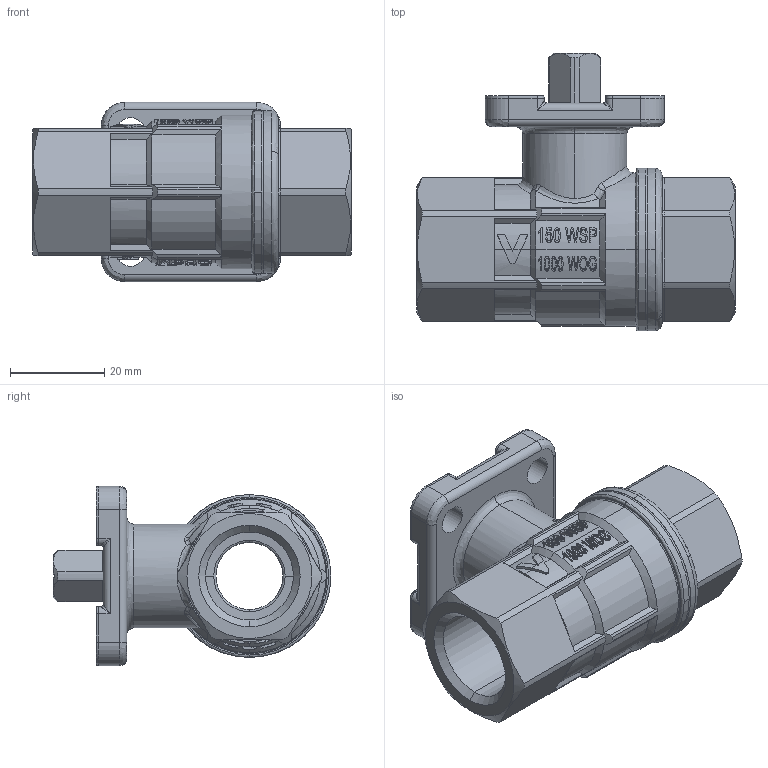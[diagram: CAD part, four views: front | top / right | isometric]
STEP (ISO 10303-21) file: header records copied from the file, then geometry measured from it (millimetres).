
FILE_DESCRIPTION (( 'STEP AP203' ), '1' );
FILE_NAME ('70300004.STEP', '2009-05-20T09:47:55', ( '.' ), ( '.' ), 'SwSTEP 2.0', 'SolidWorks 2008', '' );
FILE_SCHEMA (( 'CONFIG_CONTROL_DESIGN' ));
Products named in the file (1): 70300004
Bounding box: 67.5 x 58.85 x 38 mm (x, y, z)
Volume: 44277.2 mm3; surface area: 16726.8 mm2
Topology: 1 solids, 1 shells, 772 faces, 2034 edges, 1286 vertices
Faces by surface type: bspline 322, plane 237, cylinder 170, cone 43
Entity records: 63260 total; most frequent: CARTESIAN_POINT 46530, ORIENTED_EDGE 4012, DIRECTION 2602, EDGE_CURVE 2006, VERTEX_POINT 1286, AXIS2_PLACEMENT_3D 896, EDGE_LOOP 834, VECTOR 810
